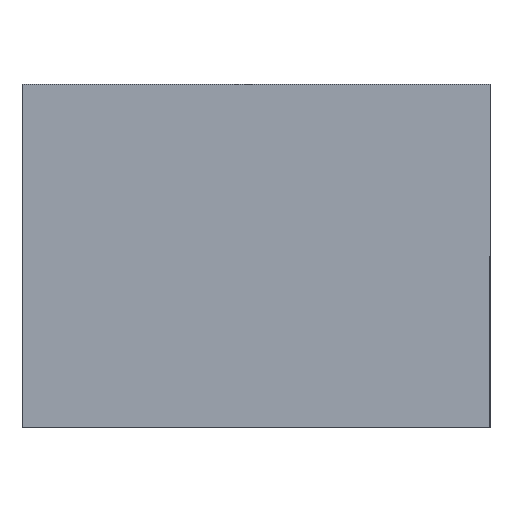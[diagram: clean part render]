
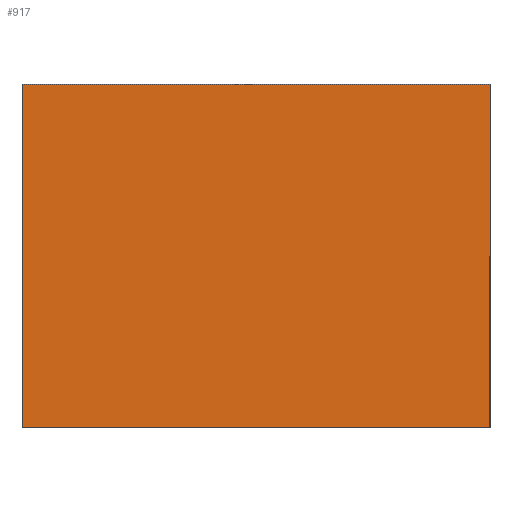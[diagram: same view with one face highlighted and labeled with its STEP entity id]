
A CAD part, front view. The second image highlights one B-rep face of the part: STEP entity #917.
In plain terms, the highlighted planar face has unit normal (0, -1, 0).
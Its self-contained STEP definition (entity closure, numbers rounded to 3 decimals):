
#8 = LINE ( 'NONE', #1919, #1268 ) ;
#155 = CARTESIAN_POINT ( 'NONE',  ( 0., 0., 0. ) ) ;
#177 = ORIENTED_EDGE ( 'NONE', *, *, #1436, .F. ) ;
#192 = DIRECTION ( 'NONE',  ( 1., 0., 0. ) ) ;
#248 = EDGE_LOOP ( 'NONE', ( #177, #781, #943, #628 ) ) ;
#323 = LINE ( 'NONE', #1275, #1212 ) ;
#396 = EDGE_CURVE ( 'NONE', #2104, #571, #2150, .T. ) ;
#517 = DIRECTION ( 'NONE',  ( 0., 1., 0. ) ) ;
#571 = VERTEX_POINT ( 'NONE', #960 ) ;
#628 = ORIENTED_EDGE ( 'NONE', *, *, #875, .F. ) ;
#730 = CARTESIAN_POINT ( 'NONE',  ( -37.5, 0., 27.5 ) ) ;
#781 = ORIENTED_EDGE ( 'NONE', *, *, #396, .F. ) ;
#792 = VECTOR ( 'NONE', #1972, 1000. ) ;
#875 = EDGE_CURVE ( 'NONE', #2084, #2135, #8, .T. ) ;
#917 = ADVANCED_FACE ( 'NONE', ( #1686 ), #2108, .F. ) ;
#943 = ORIENTED_EDGE ( 'NONE', *, *, #1408, .F. ) ;
#960 = CARTESIAN_POINT ( 'NONE',  ( 37.5, 0., 27.5 ) ) ;
#1212 = VECTOR ( 'NONE', #1453, 1000. ) ;
#1259 = CARTESIAN_POINT ( 'NONE',  ( 37.5, 0., -27.5 ) ) ;
#1268 = VECTOR ( 'NONE', #2097, 1000. ) ;
#1275 = CARTESIAN_POINT ( 'NONE',  ( 37.5, 0., -27.5 ) ) ;
#1408 = EDGE_CURVE ( 'NONE', #2135, #2104, #1845, .T. ) ;
#1436 = EDGE_CURVE ( 'NONE', #571, #2084, #323, .T. ) ;
#1447 = CARTESIAN_POINT ( 'NONE',  ( -37.5, 0., 27.5 ) ) ;
#1453 = DIRECTION ( 'NONE',  ( 0., 0., -1. ) ) ;
#1627 = CARTESIAN_POINT ( 'NONE',  ( -37.5, 0., -27.5 ) ) ;
#1686 = FACE_OUTER_BOUND ( 'NONE', #248, .T. ) ;
#1689 = VECTOR ( 'NONE', #192, 1000. ) ;
#1756 = DIRECTION ( 'NONE',  ( 0., 0., 1. ) ) ;
#1795 = CARTESIAN_POINT ( 'NONE',  ( -37.5, 0., -27.5 ) ) ;
#1845 = LINE ( 'NONE', #1795, #792 ) ;
#1868 = AXIS2_PLACEMENT_3D ( 'NONE', #155, #517, #1756 ) ;
#1919 = CARTESIAN_POINT ( 'NONE',  ( -37.5, 0., -27.5 ) ) ;
#1972 = DIRECTION ( 'NONE',  ( 0., 0., 1. ) ) ;
#2084 = VERTEX_POINT ( 'NONE', #1259 ) ;
#2097 = DIRECTION ( 'NONE',  ( -1., 0., 0. ) ) ;
#2104 = VERTEX_POINT ( 'NONE', #730 ) ;
#2108 = PLANE ( 'NONE',  #1868 ) ;
#2135 = VERTEX_POINT ( 'NONE', #1627 ) ;
#2150 = LINE ( 'NONE', #1447, #1689 ) ;
